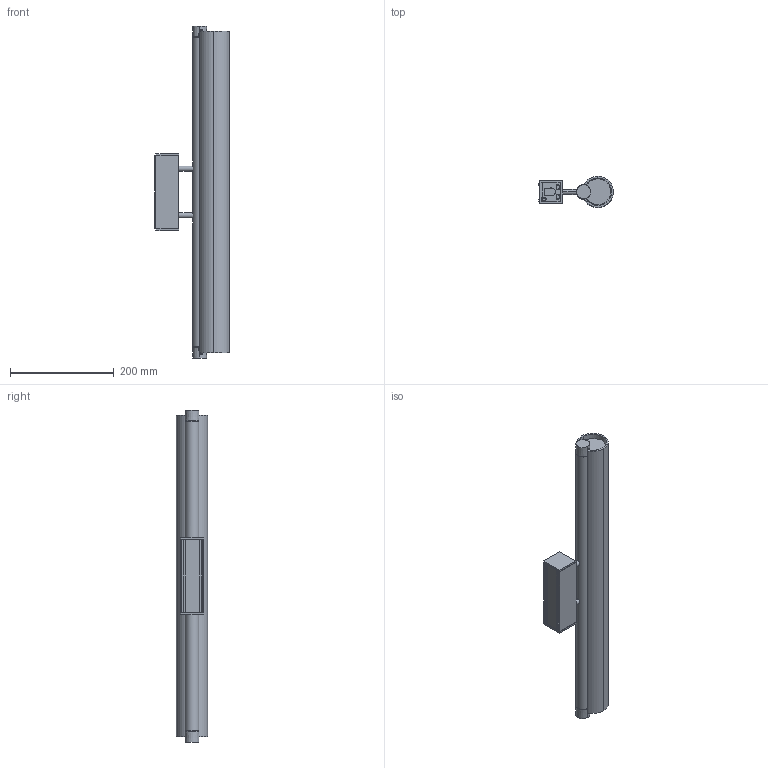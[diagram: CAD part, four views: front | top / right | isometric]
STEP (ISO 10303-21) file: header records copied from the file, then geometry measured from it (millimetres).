
FILE_DESCRIPTION (( 'STEP AP214' ), '1' );
FILE_NAME ('3D_NORMA_65.STEP', '2018-03-14T13:33:56', ( 'Utente' ), ( '' ), 'SwSTEP 2.0', 'SolidWorks 2016', '' );
FILE_SCHEMA (( 'AUTOMOTIVE_DESIGN' ));
Length unit declared in the file: millimetre
Products named in the file (3): 063NOR000300MARTI-1^3D_NORMA_65; Group1^3D_NORMA_65; 3D_NORMA_65
Assembly tree (2 placements, depth 2):
  3D_NORMA_65
    Group1^3D_NORMA_65
    063NOR000300MARTI-1^3D_NORMA_65
Bounding box: 144.22 x 60 x 639 mm (x, y, z)
Volume: 631454.9 mm3; surface area: 321671.6 mm2
Topology: 2 solids, 2 shells, 456 faces, 1135 edges, 682 vertices
Faces by surface type: plane 151, cylinder 135, bspline 89, torus 36, cone 29, sphere 16
Entity records: 16238 total; most frequent: CARTESIAN_POINT 5446, ORIENTED_EDGE 2242, DIRECTION 1943, EDGE_CURVE 1121, AXIS2_PLACEMENT_3D 738, VERTEX_POINT 682, EDGE_LOOP 473, VECTOR 467
